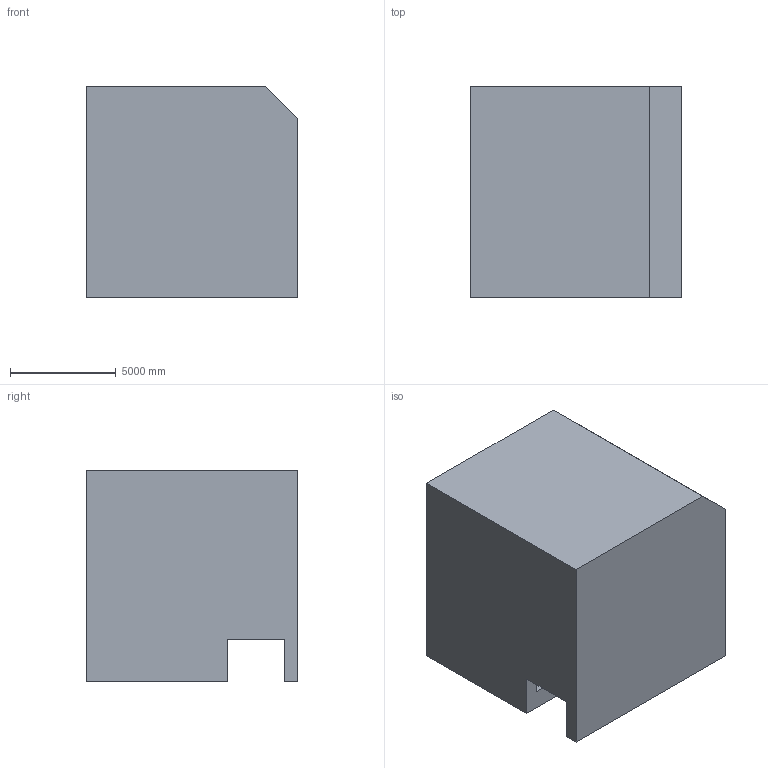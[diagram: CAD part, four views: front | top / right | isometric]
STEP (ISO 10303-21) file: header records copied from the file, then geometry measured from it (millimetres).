
FILE_DESCRIPTION (( 'STEP AP203' ), '1' );
FILE_NAME ('1425.STEP', '2022-08-18T14:23:56', ( 'user' ), ( '' ), 'SwSTEP 2.0', 'SolidWorks 2021', '' );
FILE_SCHEMA (( 'CONFIG_CONTROL_DESIGN' ));
Length unit declared in the file: centimetre
Products named in the file (1): 1425
Bounding box: 10000 x 10000 x 10000 mm (x, y, z)
Volume: 839313558588.4 mm3; surface area: 702428589.2 mm2
Topology: 1 solids, 1 shells, 24 faces, 72 edges, 48 vertices
Faces by surface type: plane 23, cylinder 1
Entity records: 879 total; most frequent: CARTESIAN_POINT 145, ORIENTED_EDGE 144, DIRECTION 124, EDGE_CURVE 72, LINE 70, VECTOR 70, VERTEX_POINT 48, AXIS2_PLACEMENT_3D 27
